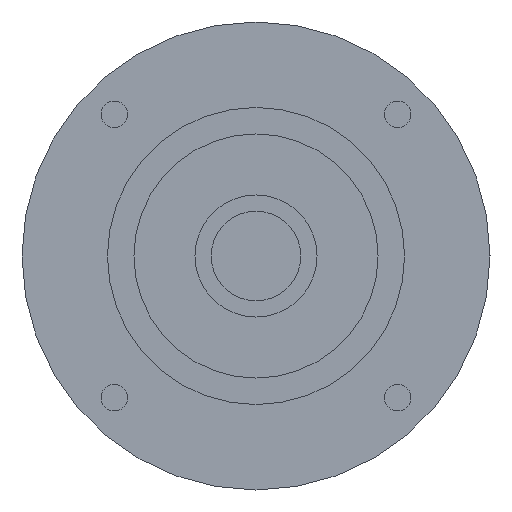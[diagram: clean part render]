
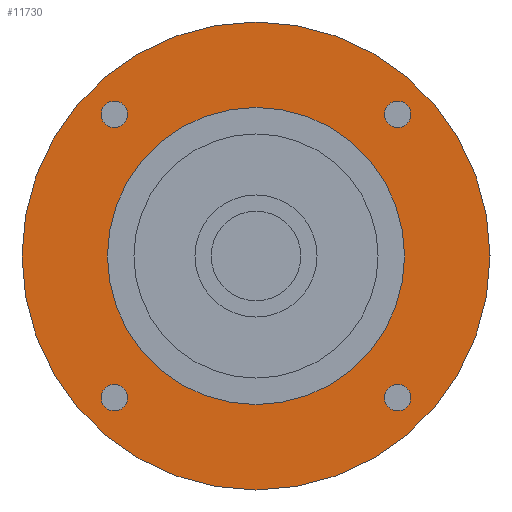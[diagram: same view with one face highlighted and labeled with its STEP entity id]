
A CAD part, left-side view. The second image highlights one B-rep face of the part: STEP entity #11730.
In plain terms, the highlighted planar face has unit normal (-1, 0, 0) as drawn and (0, 0, -1) by its records, which use the part's own axes.
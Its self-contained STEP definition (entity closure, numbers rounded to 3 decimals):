
#10570=CARTESIAN_POINT('',(-57.5,0.,-66.401));
#10580=VERTEX_POINT('',#10570);
#10610=CARTESIAN_POINT('',(0.,0.,
-66.401));
#10620=DIRECTION('',(0.,0.,-1.));
#10630=DIRECTION('',(0.,-1.,0.));
#10640=AXIS2_PLACEMENT_3D('',#10610,#10620,#10630);
#10650=CIRCLE('',#10640,57.5);
#10660=CARTESIAN_POINT('',(57.5,0.,-66.401));
#10670=VERTEX_POINT('',#10660);
#10680=EDGE_CURVE('',#10580,#10670,#10650,.T.);
#10800=CARTESIAN_POINT('',(0.,0.,
-66.401));
#10810=DIRECTION('',(0.,0.,-1.));
#10820=DIRECTION('',(1.,0.,0.));
#10830=AXIS2_PLACEMENT_3D('',#10800,#10810,#10820);
#10840=PLANE('',#10830);
#10850=CARTESIAN_POINT('',(34.797,34.797,-66.401));
#10860=DIRECTION('',(0.,0.,-1.));
#10870=DIRECTION('',(0.,1.,0.));
#10880=AXIS2_PLACEMENT_3D('',#10850,#10860,#10870);
#10890=CIRCLE('',#10880,3.25);
#10900=CARTESIAN_POINT('',(34.797,38.047,-66.401));
#10910=VERTEX_POINT('',#10900);
#10920=CARTESIAN_POINT('',(34.797,31.547,-66.401));
#10930=VERTEX_POINT('',#10920);
#10940=EDGE_CURVE('',#10910,#10930,#10890,.T.);
#10950=ORIENTED_EDGE('',*,*,#10940,.F.);
#10960=EDGE_CURVE('',#10930,#10910,#10890,.T.);
#10970=ORIENTED_EDGE('',*,*,#10960,.F.);
#10980=EDGE_LOOP('',(#10970,#10950));
#10990=FACE_BOUND('',#10980,.T.);
#11000=CARTESIAN_POINT('',(-34.797,34.797,-66.401));
#11010=DIRECTION('',(0.,0.,-1.));
#11020=DIRECTION('',(-1.,0.,0.));
#11030=AXIS2_PLACEMENT_3D('',#11000,#11010,#11020);
#11040=CIRCLE('',#11030,3.25);
#11050=CARTESIAN_POINT('',(-38.047,34.797,-66.401));
#11060=VERTEX_POINT('',#11050);
#11070=CARTESIAN_POINT('',(-31.547,34.797,-66.401));
#11080=VERTEX_POINT('',#11070);
#11090=EDGE_CURVE('',#11060,#11080,#11040,.T.);
#11100=ORIENTED_EDGE('',*,*,#11090,.F.);
#11110=EDGE_CURVE('',#11080,#11060,#11040,.T.);
#11120=ORIENTED_EDGE('',*,*,#11110,.F.);
#11130=EDGE_LOOP('',(#11120,#11100));
#11140=FACE_BOUND('',#11130,.T.);
#11150=CARTESIAN_POINT('',(-34.797,-34.797,-66.401));
#11160=DIRECTION('',(0.,0.,-1.));
#11170=DIRECTION('',(0.,-1.,0.));
#11180=AXIS2_PLACEMENT_3D('',#11150,#11160,#11170);
#11190=CIRCLE('',#11180,3.25);
#11200=CARTESIAN_POINT('',(-34.797,-38.047,-66.401));
#11210=VERTEX_POINT('',#11200);
#11220=CARTESIAN_POINT('',(-34.797,-31.547,-66.401));
#11230=VERTEX_POINT('',#11220);
#11240=EDGE_CURVE('',#11210,#11230,#11190,.T.);
#11250=ORIENTED_EDGE('',*,*,#11240,.F.);
#11260=EDGE_CURVE('',#11230,#11210,#11190,.T.);
#11270=ORIENTED_EDGE('',*,*,#11260,.F.);
#11280=EDGE_LOOP('',(#11270,#11250));
#11290=FACE_BOUND('',#11280,.T.);
#11300=CARTESIAN_POINT('',(0.,0.,
-66.401));
#11310=DIRECTION('',(0.,0.,1.));
#11320=DIRECTION('',(0.,1.,0.));
#11330=AXIS2_PLACEMENT_3D('',#11300,#11310,#11320);
#11340=CIRCLE('',#11330,36.51);
#11350=CARTESIAN_POINT('',(-36.51,0.,-66.401));
#11360=VERTEX_POINT('',#11350);
#11370=CARTESIAN_POINT('',(36.51,0.,-66.401));
#11380=VERTEX_POINT('',#11370);
#11390=EDGE_CURVE('',#11360,#11380,#11340,.T.);
#11400=ORIENTED_EDGE('',*,*,#11390,.T.);
#11410=CARTESIAN_POINT('',(0.,36.51,-66.401));
#11420=VERTEX_POINT('',#11410);
#11430=EDGE_CURVE('',#11420,#11360,#11340,.T.);
#11440=ORIENTED_EDGE('',*,*,#11430,.T.);
#11450=EDGE_CURVE('',#11380,#11420,#11340,.T.);
#11460=ORIENTED_EDGE('',*,*,#11450,.T.);
#11470=EDGE_LOOP('',(#11460,#11440,#11400));
#11480=FACE_BOUND('',#11470,.T.);
#11490=CARTESIAN_POINT('',(34.797,-34.797,-66.401));
#11500=DIRECTION('',(0.,0.,-1.));
#11510=DIRECTION('',(1.,0.,0.));
#11520=AXIS2_PLACEMENT_3D('',#11490,#11500,#11510);
#11530=CIRCLE('',#11520,3.25);
#11540=CARTESIAN_POINT('',(38.047,-34.797,-66.401));
#11550=VERTEX_POINT('',#11540);
#11560=CARTESIAN_POINT('',(31.547,-34.797,-66.401));
#11570=VERTEX_POINT('',#11560);
#11580=EDGE_CURVE('',#11550,#11570,#11530,.T.);
#11590=ORIENTED_EDGE('',*,*,#11580,.F.);
#11600=EDGE_CURVE('',#11570,#11550,#11530,.T.);
#11610=ORIENTED_EDGE('',*,*,#11600,.F.);
#11620=EDGE_LOOP('',(#11610,#11590));
#11630=FACE_BOUND('',#11620,.T.);
#11640=ORIENTED_EDGE('',*,*,#10680,.T.);
#11650=CARTESIAN_POINT('',(0.,-57.5,-66.401));
#11660=VERTEX_POINT('',#11650);
#11670=EDGE_CURVE('',#11660,#10580,#10650,.T.);
#11680=ORIENTED_EDGE('',*,*,#11670,.T.);
#11690=EDGE_CURVE('',#10670,#11660,#10650,.T.);
#11700=ORIENTED_EDGE('',*,*,#11690,.T.);
#11710=EDGE_LOOP('',(#11700,#11680,#11640));
#11720=FACE_OUTER_BOUND('',#11710,.T.);
#11730=ADVANCED_FACE('',(#10990,#11140,#11290,#11480,#11630,#11720),
#10840,.T.);
